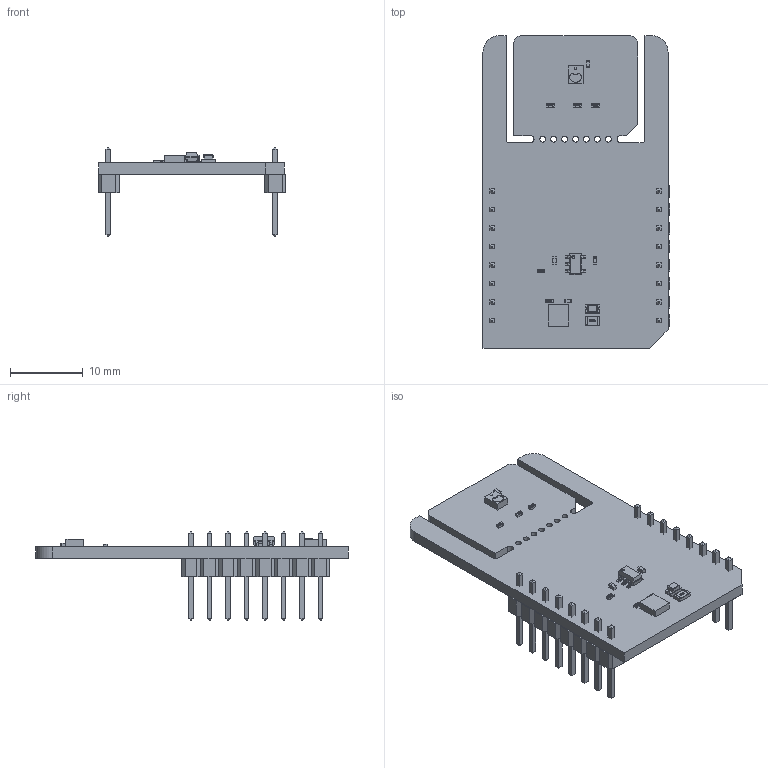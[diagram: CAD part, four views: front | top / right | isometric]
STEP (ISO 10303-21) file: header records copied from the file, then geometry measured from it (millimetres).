
FILE_DESCRIPTION(('Open CASCADE Model'),'2;1');
FILE_NAME('Open CASCADE Shape Model','2025-11-27T10:12:49',('Author'),( 'Open CASCADE'),'Open CASCADE STEP processor 6.8','Open CASCADE 6.8' ,'Unknown');
FILE_SCHEMA(('AUTOMOTIVE_DESIGN { 1 0 10303 214 1 1 1 1 }'));
Length unit declared in the file: millimetre
Products named in the file (33): PCB; Board; U3; User_Library-SOT23-5-2; C4; User_Library-SMD_CAPACITOR0402; C3; U2; 80589VCNL36826M_RGB0; Open CASCADE STEP translator 6.8 3.5.1.1; Open CASCADE STEP translator 6.8 3.5.1.2; R5; User_Library-R_0402; R4; R3; C2; MBD1; Header_1x8; Free-Models; 1240637040; User_Library-PinHeaderX5-1_PinHeaderX5_Body_1; User_Library-PinHeaderX5-1_PinHeaderX5_Pins_1; U1; 1148279152; Extruded; C1; R2; LD1; led_0805_green; R1; User_Library-R_0805; R6
Assembly tree (41 placements, depth 7):
  PCB
    Board
    U3
      User_Library-SOT23-5-2
    C4
      User_Library-SMD_CAPACITOR0402
    C3
      User_Library-SMD_CAPACITOR0402
    U2
      80589VCNL36826M_RGB0
        Open CASCADE STEP translator 6.8 3.5.1.1
        Open CASCADE STEP translator 6.8 3.5.1.2
    R5
      User_Library-R_0402
    R4
      User_Library-R_0402
    R3
      User_Library-R_0402
    C2
      User_Library-SMD_CAPACITOR0402
    MBD1
      Header_1x8  x2
        PCB
          Free-Models
            1240637040  x2
              User_Library-PinHeaderX5-1_PinHeaderX5_Body_1
              User_Library-PinHeaderX5-1_PinHeaderX5_Pins_1
    U1
      1148279152
        Extruded
    C1
      User_Library-SMD_CAPACITOR0402
    R2
      User_Library-R_0402
    LD1
      led_0805_green
    R1
      User_Library-R_0805
    R6
      User_Library-R_0402
Bounding box: 25.78 x 42.93 x 12.19 mm (x, y, z)
Volume: 2150 mm3; surface area: 3870.4 mm2
Topology: 41 solids, 41 shells, 1357 faces, 3435 edges, 2212 vertices
Faces by surface type: plane 1031, bspline 172, cylinder 115, sphere 38, extrusion 1
Full cylindrical faces by diameter (mm): 0.8 x7
Entity records: 23669 total; most frequent: CARTESIAN_POINT 7322, ORIENTED_EDGE 2700, DIRECTION 2409, EDGE_CURVE 1350, VECTOR 1103, LINE 1102, VERTEX_POINT 866, AXIS2_PLACEMENT_3D 653
